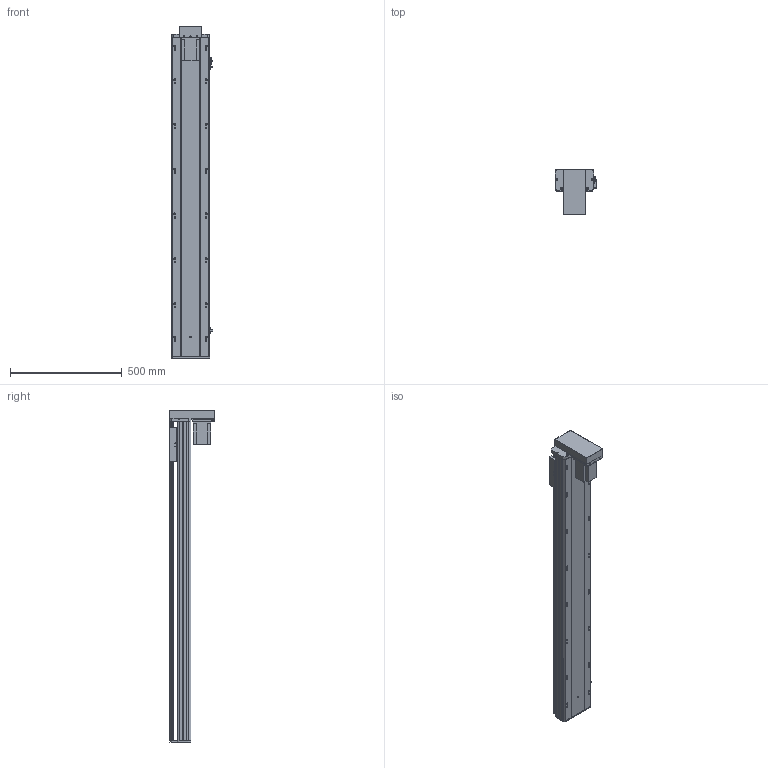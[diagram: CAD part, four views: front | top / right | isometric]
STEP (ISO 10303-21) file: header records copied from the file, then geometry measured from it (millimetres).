
FILE_DESCRIPTION (( 'STEP AP203' ), '1' );
FILE_NAME ('Y170-D10-S1200-BM-P750W.STEP', '2020-01-22T03:23:14', ( '微软用户' ), ( '微软中国' ), 'SwSTEP 2.0', 'SolidWorks 2017', '' );
FILE_SCHEMA (( 'CONFIG_CONTROL_DESIGN' ));
Length unit declared in the file: millimetre
Products named in the file (12): -BM俋袗; Y170耜裔--準---; YD-Y100-135-新外置传感挡片(通用）; 170--掛极-BR; Y100-135俋离換覜ん; 侂狟750W; Y170-D10-S1200-BM-P750W; EGH20賑輸_蕼偞; Y雄赽釱-耜蚾; Y170-陔遴奻裔-BR; 170-BM耜蚾蟀諉啣; Y170-BM--P750W楊擘啣
Assembly tree (14 placements, depth 2):
  Y170-D10-S1200-BM-P750W
    Y170耜裔--準---
    170--掛极-BR
    侂狟750W
    EGH20賑輸_蕼偞  x2
    Y雄赽釱-耜蚾
    Y170-陔遴奻裔-BR
    170-BM耜蚾蟀諉啣
    Y170-BM--P750W楊擘啣
    -BM俋袗
    YD-Y100-135-新外置传感挡片(通用）
    Y100-135俋离換覜ん  x3
Bounding box: 183.5 x 203.5 x 1483.5 mm (x, y, z)
Volume: 6800803.7 mm3; surface area: 2365880.7 mm2
Topology: 14 solids, 14 shells, 930 faces, 2652 edges, 1750 vertices
Faces by surface type: cylinder 478, plane 436, cone 16
Entity records: 29786 total; most frequent: CARTESIAN_POINT 5375, DIRECTION 4904, ORIENTED_EDGE 4800, EDGE_CURVE 2400, AXIS2_PLACEMENT_3D 1747, VERTEX_POINT 1594, LINE 1410, VECTOR 1410
